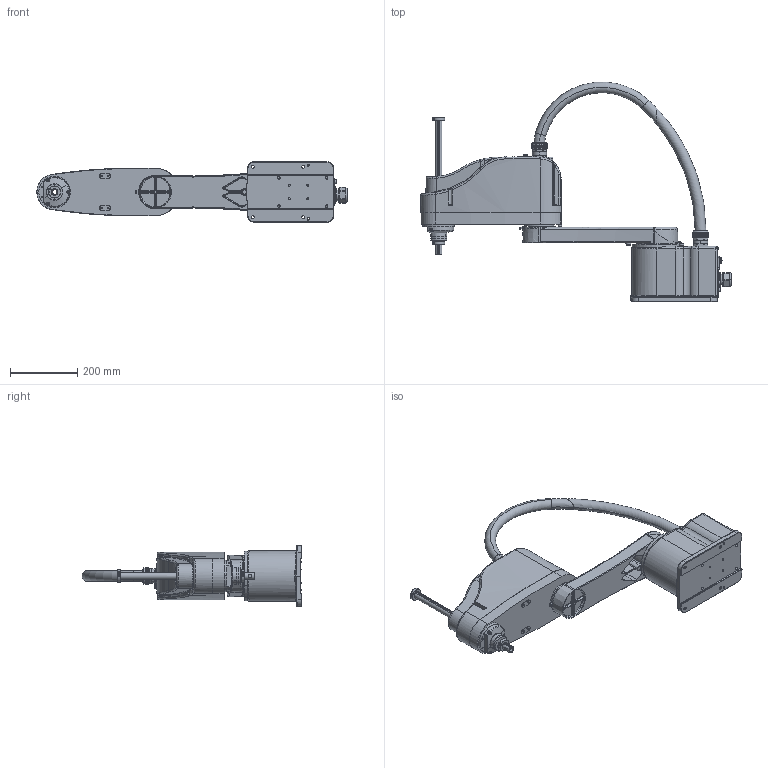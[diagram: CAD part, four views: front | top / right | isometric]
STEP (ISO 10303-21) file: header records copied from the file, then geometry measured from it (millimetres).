
FILE_DESCRIPTION((''),'2;1');
FILE_NAME('ASSY_VIEW_YR-1-04SX650-A0_ASM','2020-01-08T',('mmaekawa'),('YASKAWA ELECTRIC CORPORATION'),'PRO/ENGINEER BY PARAMETRIC TECHNOLOGY CORPORATION, 2015030','PRO/ENGINEER BY PARAMETRIC TECHNOLOGY CORPORATION, 2015030','');
FILE_SCHEMA(('CONFIG_CONTROL_DESIGN'));
Length unit declared in the file: millimetre
Products named in the file (5): BASE_VIEW_YR-1-04SX650-A0; S_VIEW_YR-1-04SX650-A0; L_VIEW_YR-1-04SX650-A0; UR_VIEW_YR-1-04SX650-A0; ASSY_VIEW_YR-1-04SX650-A0_ASM
Assembly tree (4 placements, depth 2):
  ASSY_VIEW_YR-1-04SX650-A0_ASM
    BASE_VIEW_YR-1-04SX650-A0
    S_VIEW_YR-1-04SX650-A0
    L_VIEW_YR-1-04SX650-A0
    UR_VIEW_YR-1-04SX650-A0
Bounding box: 923.96 x 654.13 x 180 mm (x, y, z)
Volume: 18036790.4 mm3; surface area: 870065.7 mm2
Topology: 5 solids, 17 shells, 1907 faces, 4751 edges, 2953 vertices
Faces by surface type: plane 683, cylinder 580, torus 240, bspline 238, cone 109, sphere 47, extrusion 10
Entity records: 90774 total; most frequent: CARTESIAN_POINT 46582, ORIENTED_EDGE 9350, DIRECTION 8958, EDGE_CURVE 4699, AXIS2_PLACEMENT_3D 3521, VERTEX_POINT 2953, EDGE_LOOP 2092, VECTOR 1916
